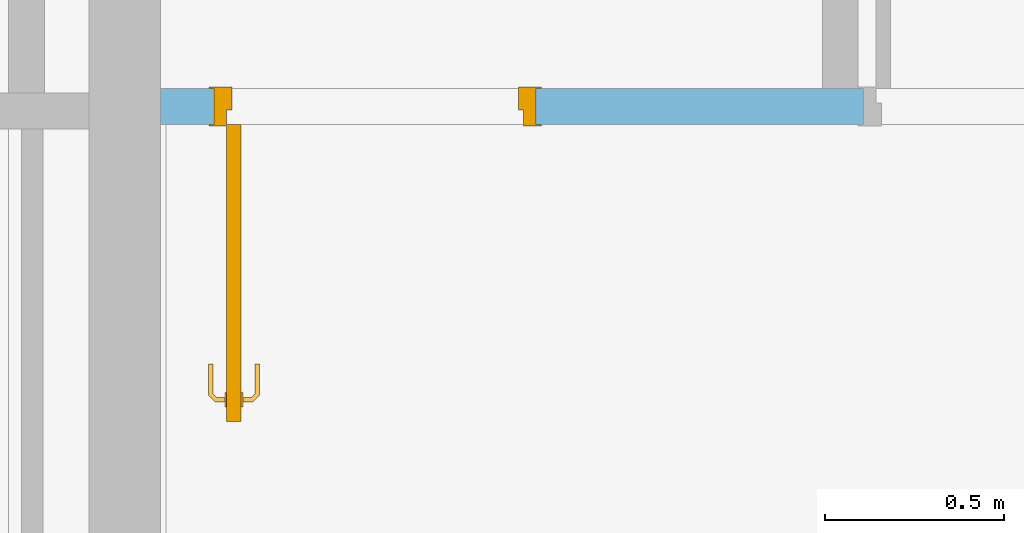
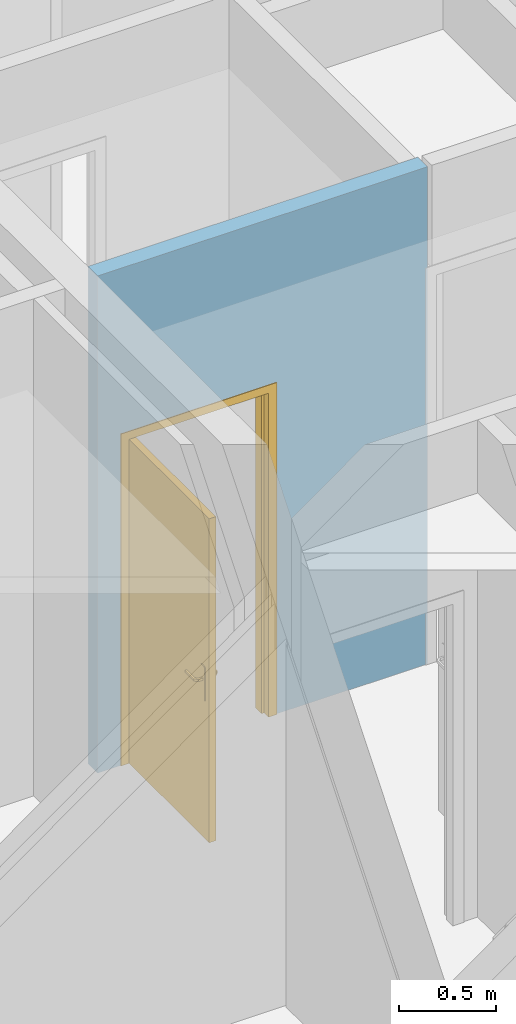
# One storey, part 194 of 240: 1 door, 1 opening, plus 1 element that does not belong to this part.
"""IFC2X3 building model written with IfcOpenShell, lengths in centimetres."""

from ifc_helpers import new_model, entity, si_unit, converted_unit, derived_unit, direction, frame, frame_2d, origin, place, context, subcontext, project, spatial, rectangle, extrude, faceted_brep, source, transform, mapped, material, material_list, layer, layer_set, layer_usage, type_object, type_shapes, element, fill, save


model = new_model("IFC2X3")

# Units and contexts
model_context = context("Model", 3, precision=0.001, world=origin(), true_north=direction((6.12303176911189e-17, 1.0)))
body_context = subcontext(model_context, "Body", "Model", "MODEL_VIEW")
ifc_project = project(units=[si_unit("LENGTHUNIT", "METRE", prefix="CENTI"), si_unit("AREAUNIT", "SQUARE_METRE"), si_unit("VOLUMEUNIT", "CUBIC_METRE"), converted_unit("PLANEANGLEUNIT", "DEGREE", entity("IfcRatioMeasure", 0.0174532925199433), si_unit("PLANEANGLEUNIT", "RADIAN"), dimensions=[0, 0, 0, 0, 0, 0, 0]), si_unit("MASSUNIT", "GRAM", prefix="KILO"), derived_unit("MASSDENSITYUNIT", [(si_unit("MASSUNIT", "GRAM", prefix="KILO"), 1), (si_unit("LENGTHUNIT", "METRE"), -3)]), si_unit("TIMEUNIT", "SECOND"), si_unit("FREQUENCYUNIT", "HERTZ"), si_unit("THERMODYNAMICTEMPERATUREUNIT", "DEGREE_CELSIUS"), derived_unit("THERMALTRANSMITTANCEUNIT", [(si_unit("MASSUNIT", "GRAM", prefix="KILO"), 1), (si_unit("THERMODYNAMICTEMPERATUREUNIT", "KELVIN"), -1), (si_unit("TIMEUNIT", "SECOND"), -3)]), derived_unit("VOLUMETRICFLOWRATEUNIT", [(si_unit("LENGTHUNIT", "METRE"), 3), (si_unit("TIMEUNIT", "SECOND"), -1)]), si_unit("ELECTRICCURRENTUNIT", "AMPERE"), si_unit("ELECTRICVOLTAGEUNIT", "VOLT"), si_unit("POWERUNIT", "WATT"), si_unit("FORCEUNIT", "NEWTON", prefix="KILO"), si_unit("ILLUMINANCEUNIT", "LUX"), si_unit("LUMINOUSFLUXUNIT", "LUMEN"), si_unit("LUMINOUSINTENSITYUNIT", "CANDELA"), derived_unit("USERDEFINED", [(si_unit("MASSUNIT", "GRAM", prefix="KILO"), -1), (si_unit("LENGTHUNIT", "METRE"), -2), (si_unit("TIMEUNIT", "SECOND"), 3), (si_unit("LUMINOUSFLUXUNIT", "LUMEN"), 1)]), derived_unit("LINEARVELOCITYUNIT", [(si_unit("LENGTHUNIT", "METRE"), 1), (si_unit("TIMEUNIT", "SECOND"), -1)]), si_unit("PRESSUREUNIT", "PASCAL"), derived_unit("USERDEFINED", [(si_unit("LENGTHUNIT", "METRE"), -2), (si_unit("MASSUNIT", "GRAM", prefix="KILO"), 1), (si_unit("TIMEUNIT", "SECOND"), -2)])], contexts=[model_context])

# Site, building, storey
site_placement = place(None, frame((-2781.94577612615, 7442.24238424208, 0.0)))
site = spatial("IfcSite", under=ifc_project, at=site_placement, Name="Default", CompositionType="ELEMENT")
building_placement = place(site_placement, origin())
building = spatial("IfcBuilding", under=site, at=building_placement, CompositionType="ELEMENT")
storey_placement = place(building_placement, origin())
storey = spatial("IfcBuildingStorey", under=building, at=storey_placement, Name="N00 - COO", CompositionType="ELEMENT", Elevation=0.0)

# Wall, opening, door
ifc_material_1 = material(Name="01 - Enduit/Plâtre")
ifc_layer_1 = layer(ifc_material_1, 1.3)
ifc_material_2 = material(Name="Terre cuite")
ifc_layer_2 = layer(ifc_material_2, 7.4)
ifc_layer_3 = layer(ifc_material_1, 1.3)
ifc_layer_set = layer_set([ifc_layer_1, ifc_layer_2, ifc_layer_3], Name="Mur de base:06 - cloisons - Carreau de terre cuite (10cm)")
ifc_layer_usage = layer_usage(ifc_layer_set, "AXIS2", "NEGATIVE", 5.0)
wall_type = type_object("IfcWallType", Name="Mur de base:06 - cloisons - Carreau de terre cuite (10cm)", PredefinedType="STANDARD", material=ifc_layer_set)
wall_placement = place(building_placement, frame((-9677.0, -2805.07903364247, 0.0)))
wall = element("IfcWallStandardCase", 1, at=wall_placement, inside=storey, type_object=wall_type, material=ifc_layer_usage, Name="Mur de base:06 - cloisons - Carreau de terre cuite (10cm)", ObjectType="Mur de base:06 - cloisons - Carreau de terre cuite (10cm)", context=body_context, shape_type="SweptSolid", body=[
    extrude(rectangle(XDim=196.499999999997, YDim=10.0000000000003, at=frame_2d((98.2499999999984, 5.81756864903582e-14), x_axis=(-1.0, 0.0))), origin(), (0.0, 0.0, 1.0), 313.0),
])
opening_placement = place(wall_placement, frame((105.000003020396, 5.0, 0.0)))
opening = element("IfcOpeningElement", 2, at=opening_placement, cuts=wall, Name="Int. Simple:PP (0.83m x 2.04m):1", ObjectType="Opening", context=body_context, shape_type="SweptSolid", body=[
    extrude(rectangle(XDim=207.5, YDim=90.0, at=frame_2d((103.75, 45.0), x_axis=(1.0, 0.0))), frame((0.0, 0.0, 0.0), z_axis=(0.0, -1.0, 0.0), x_axis=(0.0, 0.0, 1.0)), (0.0, 0.0, 1.0), 10.0),
])
ifc_material_3 = material(Name="Finition Peinture - Blanc satiné")
ifc_material_4 = material(Name="Bois - Panneau de porte")
ifc_material_5 = material(Name="Bois - Cadre de porte")
ifc_material_list_1 = material_list([ifc_material_3, ifc_material_4, ifc_material_5])
ifc_material_list_2 = material_list([ifc_material_3, ifc_material_4, ifc_material_5])
door_style = type_object("IfcDoorStyle", Name="PP (0.83m x 2.04m)", ConstructionType="NOTDEFINED", OperationType="SINGLE_SWING_RIGHT", ParameterTakesPrecedence=False, Sizeable=False, material=ifc_material_list_2)
shared_shape = source(origin(), body_context, "Body", "Brep", [
    faceted_brep([(10.0, -79.0, 87.0), (10.0, -79.0, 108.0), (10.0, -78.0352761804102, 108.399601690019), (10.0, -77.0, 108.535898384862), (10.0, -75.96472381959, 108.399601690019), (10.0, -75.0, 108.0), (10.0, -75.0, 87.0), (10.0, -75.9647238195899, 86.6003983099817), (10.0, -77.0, 86.464101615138), (10.0, -78.0352761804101, 86.6003983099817), (10.5000000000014, -79.0, 108.0), (10.5000000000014, -79.0, 87.0), (10.5000000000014, -78.0352761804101, 86.6003983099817), (10.5000000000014, -77.0, 86.464101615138), (10.5000000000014, -75.9647238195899, 86.6003983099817), (10.5000000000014, -75.0, 87.0), (10.5000000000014, -75.0, 108.0), (10.5000000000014, -75.96472381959, 108.399601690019), (10.5000000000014, -77.0, 108.535898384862), (10.5000000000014, -78.0352761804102, 108.399601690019)], [[[0, 1, 2, 3, 4, 5, 6, 7, 8, 9]], [[10, 11, 12, 13, 14, 15, 16, 17, 18, 19]], [[9, 12, 11, 0]], [[8, 13, 12, 9]], [[7, 14, 13, 8]], [[7, 6, 15, 14]], [[15, 6, 5, 16]], [[4, 17, 16, 5]], [[3, 18, 17, 4]], [[2, 19, 18, 3]], [[2, 1, 10, 19]], [[11, 10, 1, 0]]]),
    faceted_brep([(14.5000000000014, -79.0, 87.0), (14.5000000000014, -79.0, 108.0), (14.5000000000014, -78.0352761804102, 108.399601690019), (14.5000000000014, -77.0, 108.535898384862), (14.5000000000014, -75.9647238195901, 108.399601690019), (14.5000000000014, -75.0, 108.0), (14.5000000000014, -75.0, 87.0), (14.5000000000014, -75.9647238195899, 86.6003983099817), (14.5000000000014, -77.0, 86.464101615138), (14.5000000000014, -78.0352761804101, 86.6003983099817), (15.0, -77.0, 108.535898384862), (15.0, -78.0352761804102, 108.399601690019), (15.0, -79.0, 108.0), (15.0, -79.0, 87.0), (15.0, -78.0352761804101, 86.6003983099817), (15.0, -77.0, 86.464101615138), (15.0, -75.9647238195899, 86.6003983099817), (15.0, -75.0, 87.0), (15.0, -75.0, 108.0), (15.0, -75.9647238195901, 108.399601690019)], [[[0, 1, 2, 3, 4, 5, 6, 7, 8, 9]], [[10, 11, 12, 13, 14, 15, 16, 17, 18, 19]], [[4, 19, 18, 5]], [[3, 10, 19, 4]], [[2, 11, 10, 3]], [[2, 1, 12, 11]], [[13, 12, 1, 0]], [[9, 14, 13, 0]], [[8, 15, 14, 9]], [[7, 16, 15, 8]], [[7, 6, 17, 16]], [[17, 6, 5, 18]]]),
    faceted_brep([(10.0, -76.7974701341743, 100.778044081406), (10.0, -77.2025298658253, 100.778044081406), (10.0, -77.6000000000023, 100.699999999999), (10.0, -77.6000000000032, 99.2999999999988), (10.0, -77.2025298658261, 99.221955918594), (10.0, -76.7974701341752, 99.2219559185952), (10.0, -76.3999999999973, 99.3000000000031), (10.0, -76.3999999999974, 100.7), (7.39954245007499, -77.2025298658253, 100.778044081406), (7.23490492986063, -77.6000000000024, 100.7), (7.56732368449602, -76.7974701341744, 100.778044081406), (6.19971379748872, -75.429860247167, 100.778044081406), (5.7946540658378, -75.597641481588, 100.778044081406), (7.73196120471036, -76.3999999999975, 100.7), (7.73196120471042, -76.3999999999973, 99.3000000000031), (7.56732368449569, -76.7974701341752, 99.2219559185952), (7.39954245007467, -77.2025298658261, 99.221955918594), (5.79465406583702, -75.5976414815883, 99.221955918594), (6.19971379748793, -75.4298602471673, 99.2219559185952), (7.23490492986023, -77.6000000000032, 99.2999999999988), (5.3971839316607, -75.7622790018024, 100.7), (6.59718393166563, -75.2652227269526, 100.7), (6.59718393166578, -75.2652227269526, 99.3000000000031), (5.39718393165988, -75.7622790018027, 99.2999999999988), (5.39718393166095, -66.9981359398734, 100.7), (5.79465406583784, -66.9981359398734, 100.778044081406), (6.19971379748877, -66.9981359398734, 100.778044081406), (6.5971839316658, -66.9981359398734, 100.699999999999), (6.59718393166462, -66.9981359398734, 99.3000000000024), (6.19971379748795, -66.9981359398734, 99.2219559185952), (5.79465406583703, -66.9981359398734, 99.221955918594), (5.39718393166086, -66.9981359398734, 99.2999999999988), (5.9971839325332, -71.2139980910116, 100.78786867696), (5.3971839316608, -71.7692302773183, 100.7), (6.5971839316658, -71.131679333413, 100.7), (6.59718393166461, -71.1316793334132, 99.3000000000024), (5.99718392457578, -71.2139981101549, 99.2121313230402), (5.39718393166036, -71.7692310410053, 99.2999999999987)], [[[0, 1, 2, 3, 4, 5, 6, 7]], [[2, 1, 8, 9]], [[1, 0, 10, 11, 12, 8]], [[0, 7, 13, 10]], [[14, 13, 7, 6]], [[5, 15, 14, 6]], [[5, 4, 16, 17, 18, 15]], [[3, 19, 16, 4]], [[9, 19, 3, 2]], [[9, 8, 12, 20]], [[10, 13, 21, 11]], [[22, 21, 13, 14]], [[14, 15, 18, 22]], [[16, 19, 23, 17]], [[20, 23, 19, 9]], [[24, 25, 26, 27, 28, 29, 30, 31]], [[32, 25, 33]], [[33, 25, 24]], [[33, 20, 12]], [[11, 34, 32]], [[34, 11, 21]], [[27, 26, 34]], [[32, 26, 25]], [[32, 34, 26]], [[32, 33, 12]], [[11, 32, 12]], [[21, 22, 35, 28, 27, 34]], [[36, 29, 35]], [[30, 36, 37]], [[18, 35, 22]], [[29, 28, 35]], [[30, 37, 31]], [[37, 17, 23]], [[36, 17, 37]], [[36, 18, 17]], [[36, 35, 18]], [[29, 36, 30]], [[23, 20, 33, 24, 31, 37]]]),
    faceted_brep([(15.0, -76.7974701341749, 99.2219559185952), (15.0, -77.2025298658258, 99.221955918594), (15.0, -77.600000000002, 99.2999999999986), (15.0, -77.6000000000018, 100.7), (15.0, -77.202529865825, 100.778044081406), (15.0, -76.797470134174, 100.778044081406), (15.0, -76.399999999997, 100.7), (15.0, -76.3999999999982, 99.3000000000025), (17.2485204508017, -76.399999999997, 100.7), (17.2485204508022, -76.399999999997, 99.3000000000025), (17.4131579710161, -76.797470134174, 100.778044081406), (17.5809392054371, -77.2025298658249, 100.778044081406), (19.1995784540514, -75.5838906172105, 100.778044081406), (18.7945187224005, -75.4161093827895, 100.778044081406), (17.7455767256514, -77.6000000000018, 100.7), (17.7455767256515, -77.600000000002, 99.2999999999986), (17.5809392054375, -77.2025298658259, 99.221955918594), (17.4131579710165, -76.7974701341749, 99.2219559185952), (18.7945187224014, -75.4161093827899, 99.2219559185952), (19.1995784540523, -75.5838906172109, 99.221955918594), (18.3970485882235, -75.2514718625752, 100.7), (18.3970485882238, -75.2514718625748, 99.3000000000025), (19.5970485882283, -75.7485281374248, 100.7), (19.5970485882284, -75.7485281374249, 99.2999999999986), (18.7945187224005, -66.9954216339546, 100.778044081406), (19.1995784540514, -66.9954216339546, 100.778044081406), (19.5970485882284, -66.9954216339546, 100.7), (19.5970485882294, -66.9954216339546, 99.2999999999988), (19.1995784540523, -66.9954216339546, 99.221955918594), (18.7945187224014, -66.9954216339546, 99.2219559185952), (18.3970485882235, -66.9954216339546, 99.3000000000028), (18.3970485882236, -66.9954216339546, 100.7), (18.3970485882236, -71.1234467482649, 100.7), (18.3970485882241, -71.1234479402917, 99.3000000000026), (18.9970485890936, -71.2057655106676, 100.78786867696), (19.5970485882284, -71.7554794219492, 100.7), (19.5970485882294, -71.7554795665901, 99.2999999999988), (18.9970485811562, -71.2057654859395, 99.2121313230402)], [[[0, 1, 2, 3, 4, 5, 6, 7]], [[8, 9, 7, 6]], [[5, 10, 8, 6]], [[5, 4, 11, 12, 13, 10]], [[3, 14, 11, 4]], [[14, 3, 2, 15]], [[2, 1, 16, 15]], [[1, 0, 17, 18, 19, 16]], [[0, 7, 9, 17]], [[20, 21, 9, 8]], [[8, 10, 13, 20]], [[14, 22, 12, 11]], [[23, 22, 14, 15]], [[15, 16, 19, 23]], [[17, 9, 21, 18]], [[24, 25, 26, 27, 28, 29, 30, 31]], [[21, 20, 32, 31, 30, 33]], [[34, 24, 32]], [[25, 34, 35]], [[13, 32, 20]], [[24, 31, 32]], [[25, 35, 26]], [[35, 12, 22]], [[34, 12, 35]], [[34, 13, 12]], [[34, 32, 13]], [[24, 34, 25]], [[22, 23, 36, 27, 26, 35]], [[37, 28, 36]], [[36, 28, 27]], [[36, 23, 19]], [[18, 33, 37]], [[33, 18, 21]], [[30, 29, 33]], [[37, 29, 28]], [[37, 33, 29]], [[37, 36, 19]], [[18, 37, 19]]]),
    faceted_brep([(14.5000000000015, -83.0, 204.0), (14.5000000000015, -83.0, 0.0), (14.5000000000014, 0.0, 0.0), (14.5000000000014, 0.0, 204.0), (10.5000000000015, -83.0, 204.0), (10.5000000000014, 0.0, 204.0), (10.5000000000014, 0.0, 0.0), (10.5000000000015, -83.0, 0.0)], [[[0, 1, 2, 3]], [[4, 5, 6, 7]], [[3, 5, 4, 0]], [[2, 6, 5, 3]], [[1, 7, 6, 2]], [[0, 4, 7, 1]]]),
    faceted_brep([(97.0, 10.0, 0.0), (97.0, 0.0, 0.0), (98.5000000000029, 0.0, 0.0), (98.5000000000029, -0.49999999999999, 0.0), (93.5000000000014, -0.49999999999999, 0.0), (93.5000000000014, 4.0, 0.0), (92.0, 4.0, 0.0), (92.0, 10.5000000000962, 0.0), (98.5000000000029, 10.5000000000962, 0.0), (98.5000000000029, 10.0, 0.0), (97.0, 10.0, 207.500000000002), (97.0, 0.0, 207.500000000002), (98.5000000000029, 10.0, 209.0), (5.49999999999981, 10.0, 209.0), (5.49999999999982, 10.0, 0.0), (7.0, 10.0, 0.0), (7.0, 10.0, 207.500000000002), (92.0, 4.0, 202.5), (92.0, 10.5000000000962, 202.5), (93.5000000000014, 4.0, 204.0), (10.5000000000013, 4.0, 204.0), (10.5000000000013, 4.0, 0.0), (12.0, 4.0, 0.0), (12.0, 4.0, 202.5), (7.0, 0.0, 0.0), (7.0, 0.0, 207.500000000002), (5.49999999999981, 10.5000000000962, 0.0), (12.0, 10.5000000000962, 0.0), (10.5000000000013, -0.49999999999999, 0.0), (5.49999999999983, -0.49999999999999, 0.0), (5.49999999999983, 0.0, 0.0), (12.0, 10.5000000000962, 202.5), (93.5000000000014, -0.49999999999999, 204.0), (98.5000000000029, -0.49999999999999, 209.0), (5.49999999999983, -0.49999999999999, 209.0), (10.5000000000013, -0.49999999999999, 204.0), (98.5000000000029, 0.0, 209.0), (5.49999999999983, 0.0, 209.0), (98.5000000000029, 10.5000000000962, 209.0), (5.49999999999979, 10.5000000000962, 209.0)], [[[0, 1, 2, 3, 4, 5, 6, 7, 8, 9]], [[0, 10, 11, 1]], [[9, 12, 13, 14, 15, 16, 10, 0]], [[7, 6, 17, 18]], [[5, 19, 20, 21, 22, 23, 17, 6]], [[16, 15, 24, 25]], [[15, 14, 26, 27, 22, 21, 28, 29, 30, 24]], [[23, 22, 27, 31]], [[10, 16, 25, 11]], [[17, 23, 31, 18]], [[5, 4, 32, 19]], [[3, 33, 34, 29, 28, 35, 32, 4]], [[2, 36, 33, 3]], [[1, 11, 25, 24, 30, 37, 36, 2]], [[8, 38, 12, 9]], [[7, 18, 31, 27, 26, 39, 38, 8]], [[35, 28, 21, 20]], [[37, 30, 29, 34]], [[39, 26, 14, 13]], [[32, 35, 20, 19]], [[36, 37, 34, 33]], [[38, 39, 13, 12]]]),
])
type_shapes(door_style, [shared_shape])
door_placement = place(opening_placement, frame((-97.0000030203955, -10.0, 0.0)))
door = element("IfcDoor", 3, at=door_placement, inside=storey, type_object=door_style, material=ifc_material_list_1, Name="Int. Simple:PP (0.83m x 2.04m)", ObjectType="Int. Simple:PP (0.83m x 2.04m)", OverallHeight=207.5, OverallWidth=90.0000000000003, context=body_context, shape_type="MappedRepresentation", body=[
    mapped(shared_shape, transform((0.0, 0.0, 0.0), scale=1.0)),
])
fill(opening, door)

save(model, "model.ifc")
